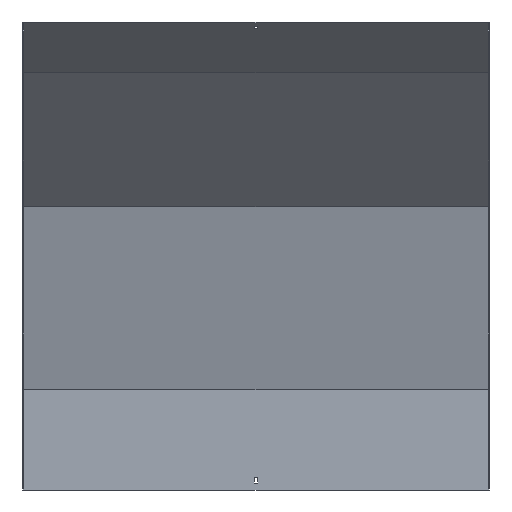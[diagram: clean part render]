
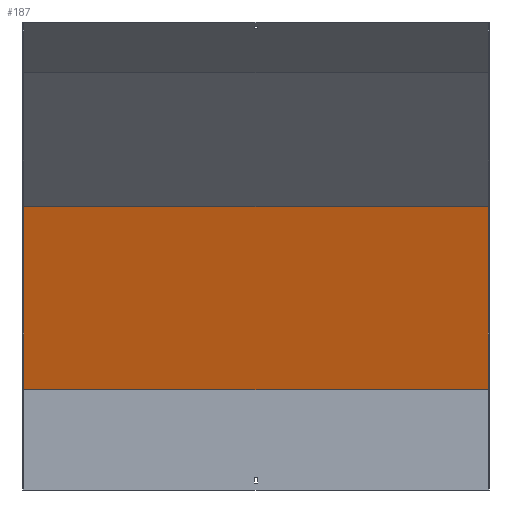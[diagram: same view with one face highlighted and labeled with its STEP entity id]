
A CAD part, front view. The second image highlights one B-rep face of the part: STEP entity #187.
In plain terms, the highlighted planar face has unit normal (0, -0.966, -0.259).
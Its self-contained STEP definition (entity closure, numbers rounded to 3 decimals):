
#90 = VERTEX_POINT ( 'NONE', #607 ) ;
#122 = ORIENTED_EDGE ( 'NONE', *, *, #677, .T. ) ;
#155 = FACE_OUTER_BOUND ( 'NONE', #740, .T. ) ;
#166 = VECTOR ( 'NONE', #645, 1000. ) ;
#187 = ADVANCED_FACE ( 'NONE', ( #155 ), #712, .T. ) ;
#207 = ORIENTED_EDGE ( 'NONE', *, *, #672, .T. ) ;
#243 = LINE ( 'NONE', #554, #757 ) ;
#284 = VECTOR ( 'NONE', #356, 1000. ) ;
#301 = CARTESIAN_POINT ( 'NONE',  ( -400., 18.5, 172.436 ) ) ;
#354 = CARTESIAN_POINT ( 'NONE',  ( -400., 60.37, 16.176 ) ) ;
#356 = DIRECTION ( 'NONE',  ( 0., -0.259, 0.966 ) ) ;
#378 = DIRECTION ( 'NONE',  ( 0., 0.259, -0.966 ) ) ;
#398 = EDGE_CURVE ( 'NONE', #882, #910, #962, .T. ) ;
#451 = EDGE_CURVE ( 'NONE', #90, #882, #827, .T. ) ;
#476 = CARTESIAN_POINT ( 'NONE',  ( 400., 60.37, 16.176 ) ) ;
#480 = DIRECTION ( 'NONE',  ( -1., 0., 0. ) ) ;
#549 = VECTOR ( 'NONE', #752, 1000. ) ;
#554 = CARTESIAN_POINT ( 'NONE',  ( 401.5, -65.977, 487.707 ) ) ;
#607 = CARTESIAN_POINT ( 'NONE',  ( 400., 18.5, 172.436 ) ) ;
#623 = LINE ( 'NONE', #476, #166 ) ;
#645 = DIRECTION ( 'NONE',  ( 0., -0.259, 0.966 ) ) ;
#656 = ORIENTED_EDGE ( 'NONE', *, *, #451, .F. ) ;
#672 = EDGE_CURVE ( 'NONE', #90, #685, #623, .T. ) ;
#677 = EDGE_CURVE ( 'NONE', #685, #910, #243, .T. ) ;
#678 = CARTESIAN_POINT ( 'NONE',  ( 401.5, 18.5, 172.436 ) ) ;
#685 = VERTEX_POINT ( 'NONE', #802 ) ;
#712 = PLANE ( 'NONE',  #885 ) ;
#723 = CARTESIAN_POINT ( 'NONE',  ( 401.5, 17.87, 174.788 ) ) ;
#740 = EDGE_LOOP ( 'NONE', ( #890, #656, #207, #122 ) ) ;
#752 = DIRECTION ( 'NONE',  ( -1., 0., 0. ) ) ;
#757 = VECTOR ( 'NONE', #480, 1000. ) ;
#802 = CARTESIAN_POINT ( 'NONE',  ( 400., -65.977, 487.707 ) ) ;
#827 = LINE ( 'NONE', #678, #549 ) ;
#865 = DIRECTION ( 'NONE',  ( 0., -0.966, -0.259 ) ) ;
#882 = VERTEX_POINT ( 'NONE', #301 ) ;
#885 = AXIS2_PLACEMENT_3D ( 'NONE', #723, #865, #378 ) ;
#890 = ORIENTED_EDGE ( 'NONE', *, *, #398, .F. ) ;
#910 = VERTEX_POINT ( 'NONE', #917 ) ;
#917 = CARTESIAN_POINT ( 'NONE',  ( -400., -65.977, 487.707 ) ) ;
#962 = LINE ( 'NONE', #354, #284 ) ;
